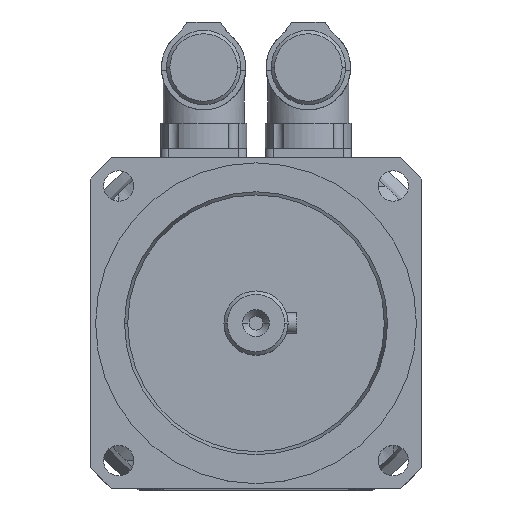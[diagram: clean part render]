
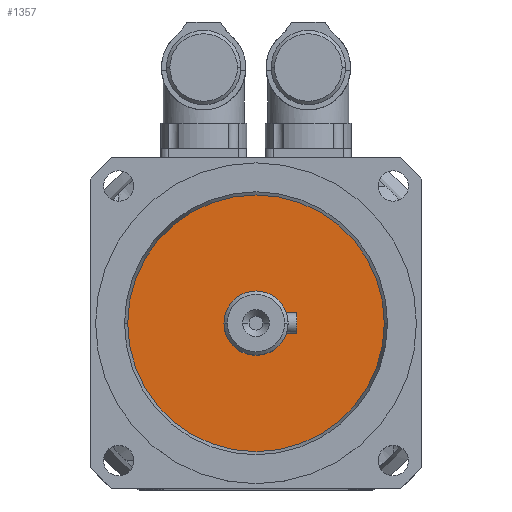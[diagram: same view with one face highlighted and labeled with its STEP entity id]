
A CAD part, top view. The second image highlights one B-rep face of the part: STEP entity #1357.
In plain terms, the highlighted free-form (B-spline) face has degree [1, 1] with [2, 2] control points.
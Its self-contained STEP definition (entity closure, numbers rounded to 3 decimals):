
#1027=CARTESIAN_POINT('',(-9.5,0.,207.5));
#1028=VERTEX_POINT('',#1027);
#1037=CARTESIAN_POINT('',(9.5,0.,207.5));
#1038=VERTEX_POINT('',#1037);
#1039=CARTESIAN_POINT('',(0.,0.,207.5));
#1040=DIRECTION('',(0.0,0.0,-1.0));
#1041=DIRECTION('',(-1.0,0.0,0.0));
#1042=AXIS2_PLACEMENT_3D('',#1039,#1040,#1041);
#1043=CIRCLE('',#1042,9.5);
#1044=EDGE_CURVE('',#1038,#1028,#1043,.T.);
#1297=CARTESIAN_POINT('',(38.0,0.,207.5));
#1298=VERTEX_POINT('',#1297);
#1314=CARTESIAN_POINT('',(-38.0,0.,207.5));
#1315=VERTEX_POINT('',#1314);
#1322=CARTESIAN_POINT('',(0.,0.,207.5));
#1323=DIRECTION('',(0.0,0.0,1.0));
#1324=DIRECTION('',(1.0,0.0,0.0));
#1325=AXIS2_PLACEMENT_3D('',#1322,#1323,#1324);
#1326=CIRCLE('',#1325,38.0);
#1327=EDGE_CURVE('',#1298,#1315,#1326,.T.);
#1332=CARTESIAN_POINT('',(-38.0,38.0,207.5));
#1333=CARTESIAN_POINT('',(38.0,38.0,207.5));
#1334=CARTESIAN_POINT('',(-38.0,-38.0,207.5));
#1335=CARTESIAN_POINT('',(38.0,-38.0,207.5));
#1336=B_SPLINE_SURFACE_WITH_KNOTS('',1,1,((#1332,#1334),(#1333,#1335)),.UNSPECIFIED.,.F.,.F.,.U.,(2,2),(2,2),(0.0,76.0),(0.0,76.0),.UNSPECIFIED.);
#1337=ORIENTED_EDGE('',*,*,#1327,.T.);
#1338=CARTESIAN_POINT('',(0.,0.,207.5));
#1339=DIRECTION('',(0.0,0.0,1.0));
#1340=DIRECTION('',(1.0,0.0,0.0));
#1341=AXIS2_PLACEMENT_3D('',#1338,#1339,#1340);
#1342=CIRCLE('',#1341,38.0);
#1343=EDGE_CURVE('',#1315,#1298,#1342,.T.);
#1344=ORIENTED_EDGE('',*,*,#1343,.T.);
#1345=EDGE_LOOP('',(#1337,#1344));
#1346=FACE_OUTER_BOUND('',#1345,.T.);
#1347=ORIENTED_EDGE('',*,*,#1044,.T.);
#1348=CARTESIAN_POINT('',(0.,0.,207.5));
#1349=DIRECTION('',(0.0,0.0,-1.0));
#1350=DIRECTION('',(-1.0,0.0,0.0));
#1351=AXIS2_PLACEMENT_3D('',#1348,#1349,#1350);
#1352=CIRCLE('',#1351,9.5);
#1353=EDGE_CURVE('',#1028,#1038,#1352,.T.);
#1354=ORIENTED_EDGE('',*,*,#1353,.T.);
#1355=EDGE_LOOP('',(#1347,#1354));
#1356=FACE_BOUND('',#1355,.T.);
#1357=ADVANCED_FACE('',(#1346,#1356),#1336,.F.);
